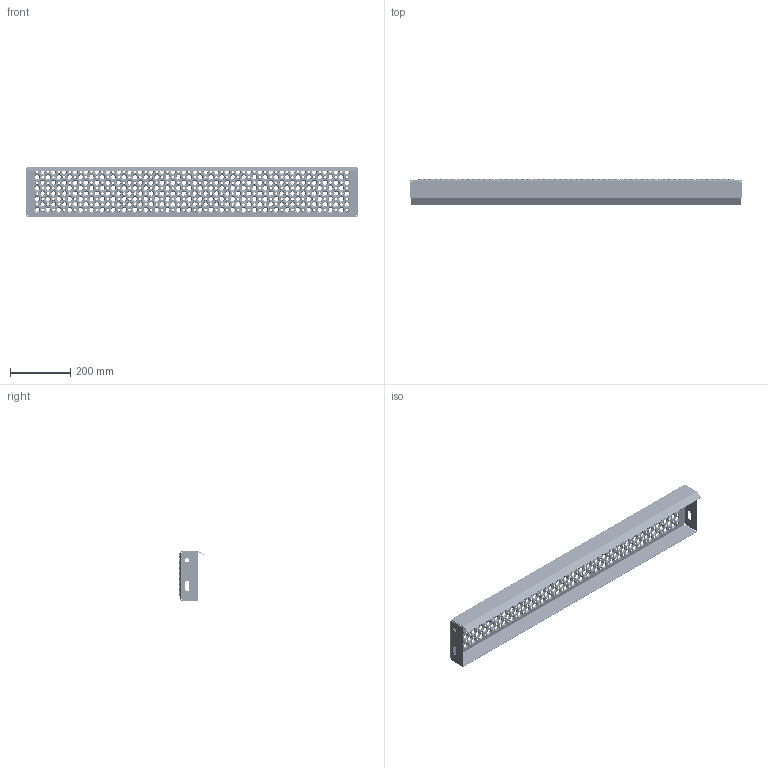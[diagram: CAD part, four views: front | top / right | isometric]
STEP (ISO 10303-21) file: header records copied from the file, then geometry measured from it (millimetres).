
FILE_DESCRIPTION (( 'STEP AP203' ), '1' );
FILE_NAME ('80241611G_Lejdertrin_165x1100x60_mm_.STEP', '2015-01-08T10:06:07', ( '' ), ( '' ), 'SwSTEP 2.0', 'SolidWorks 2013', '' );
FILE_SCHEMA (( 'CONFIG_CONTROL_DESIGN' ));
Length unit declared in the file: millimetre
Products named in the file (1): 80241611G_Lejdertrin_165x1100x60_mm_
Bounding box: 1100 x 84.17 x 165 mm (x, y, z)
Volume: 659752.2 mm3; surface area: 700023 mm2
Topology: 1 solids, 1 shells, 2396 faces, 6678 edges, 4284 vertices
Faces by surface type: cone 1392, torus 928, cylinder 36, plane 32, bspline 8
Full cylindrical faces by diameter (mm): 14 x2
Entity records: 55553 total; most frequent: DIRECTION 10550, CARTESIAN_POINT 8753, ORIENTED_EDGE 5928, EDGE_LOOP 5654, AXIS2_PLACEMENT_3D 5229, FACE_OUTER_BOUND 3326, EDGE_CURVE 2964, VERTEX_POINT 2892
